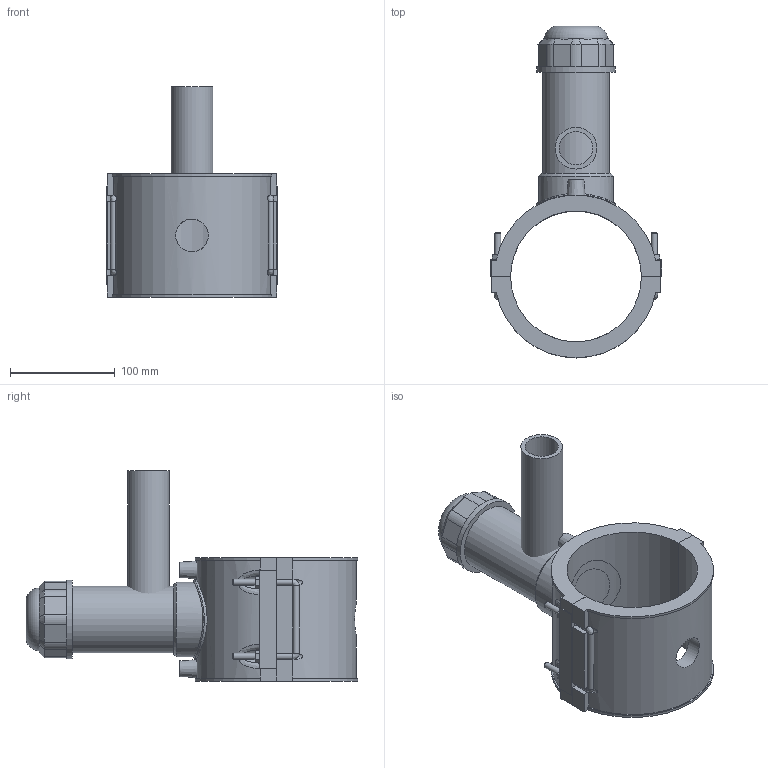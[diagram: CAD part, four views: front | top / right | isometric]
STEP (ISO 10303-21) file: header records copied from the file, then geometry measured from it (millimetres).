
FILE_DESCRIPTION(/* description */ (''),/* implementation_level */ '2;1');
FILE_NAME(/* name */ 'C:\Dropbox\KIMPROJECTS-Inventor 2019\99-16-3568-Processing\ElectroFusion Fittings\4963P4\stp\4963P4125040.stp',/* time_stamp */ '2022-03-17T11:28:43+02:00',/* author */ ('KIM'),/* organization */ (''),/* preprocessor_version */ 'ST-DEVELOPER v17.2',/* originating_system */ 'Autodesk Inventor 2019',/* authorisation */ '');
FILE_SCHEMA (('AUTOMOTIVE_DESIGN { 1 0 10303 214 3 1 1 }'));
Length unit declared in the file: millimetre
Products named in the file (1): 4963P4125040
Bounding box: 164 x 317.27 x 201 mm (x, y, z)
Volume: 1154539.9 mm3; surface area: 239622.6 mm2
Topology: 3 solids, 3 shells, 201 faces, 519 edges, 333 vertices
Faces by surface type: plane 119, cylinder 53, cone 15, bspline 13, torus 1
Full cylindrical faces by diameter (mm): 4 x2, 6 x8, 10 x2, 31.36 x1, 32 x1, 40 x1, 52.5 x1, 63.75 x1, 71.25 x1, 75 x2
Entity records: 7318 total; most frequent: CARTESIAN_POINT 2439, ORIENTED_EDGE 1022, DIRECTION 966, EDGE_CURVE 511, VERTEX_POINT 333, AXIS2_PLACEMENT_3D 331, LINE 304, VECTOR 304
